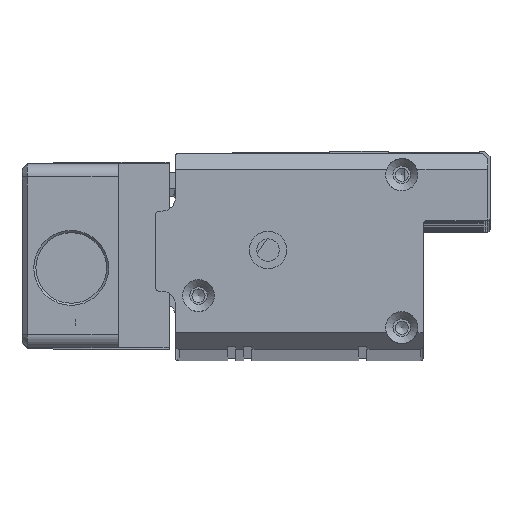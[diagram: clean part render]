
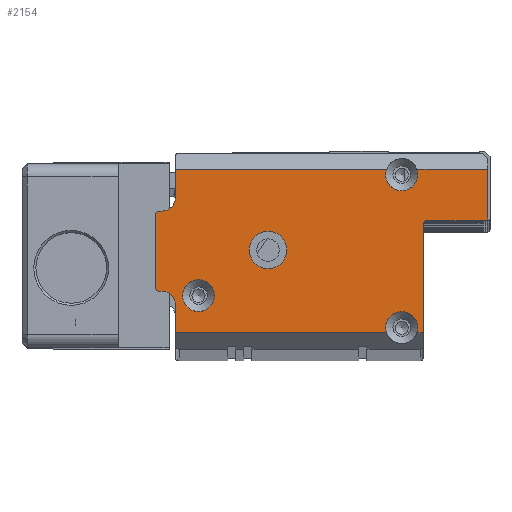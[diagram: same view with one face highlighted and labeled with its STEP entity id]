
A CAD part, top view. The second image highlights one B-rep face of the part: STEP entity #2154.
In plain terms, the highlighted planar face has unit normal (0, 0, 1).
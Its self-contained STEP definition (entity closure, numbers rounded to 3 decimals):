
#2154=ADVANCED_FACE('',(#6091,#6092,#6093),#2698,.T.);
#2698=PLANE('',#17886);
#4197=LINE('',#28148,#5755);
#4198=LINE('',#28150,#5756);
#4199=LINE('',#28154,#5757);
#4200=LINE('',#28158,#5758);
#4201=LINE('',#28160,#5759);
#4202=LINE('',#28164,#5760);
#4203=LINE('',#28166,#5761);
#4204=LINE('',#28170,#5762);
#4205=LINE('',#28174,#5763);
#4206=LINE('',#28178,#5764);
#4207=LINE('',#28182,#5765);
#4208=LINE('',#28184,#5766);
#5755=VECTOR('',#22373,1.);
#5756=VECTOR('',#22374,1.);
#5757=VECTOR('',#22377,1.);
#5758=VECTOR('',#22380,1.);
#5759=VECTOR('',#22381,1.);
#5760=VECTOR('',#22384,1.);
#5761=VECTOR('',#22385,1.);
#5762=VECTOR('',#22388,1.);
#5763=VECTOR('',#22391,1.);
#5764=VECTOR('',#22394,1.);
#5765=VECTOR('',#22397,1.);
#5766=VECTOR('',#22398,1.);
#6091=FACE_BOUND('',#7058,.T.);
#6092=FACE_BOUND('',#7059,.T.);
#6093=FACE_BOUND('',#7060,.T.);
#7058=EDGE_LOOP('',(#11600));
#7059=EDGE_LOOP('',(#11601,#11602,#11603,#11604,#11605,#11606,#11607,#11608,
#11609,#11610,#11611,#11612,#11613,#11614,#11615,#11616,#11617,#11618,#11619,
#11620));
#7060=EDGE_LOOP('',(#11621));
#11600=ORIENTED_EDGE('',*,*,#15689,.T.);
#11601=ORIENTED_EDGE('',*,*,#15690,.T.);
#11602=ORIENTED_EDGE('',*,*,#15691,.T.);
#11603=ORIENTED_EDGE('',*,*,#15692,.T.);
#11604=ORIENTED_EDGE('',*,*,#15693,.T.);
#11605=ORIENTED_EDGE('',*,*,#15694,.T.);
#11606=ORIENTED_EDGE('',*,*,#15695,.T.);
#11607=ORIENTED_EDGE('',*,*,#15696,.T.);
#11608=ORIENTED_EDGE('',*,*,#15697,.T.);
#11609=ORIENTED_EDGE('',*,*,#15698,.T.);
#11610=ORIENTED_EDGE('',*,*,#15699,.T.);
#11611=ORIENTED_EDGE('',*,*,#15700,.T.);
#11612=ORIENTED_EDGE('',*,*,#15701,.T.);
#11613=ORIENTED_EDGE('',*,*,#15702,.T.);
#11614=ORIENTED_EDGE('',*,*,#15703,.T.);
#11615=ORIENTED_EDGE('',*,*,#15704,.T.);
#11616=ORIENTED_EDGE('',*,*,#15705,.T.);
#11617=ORIENTED_EDGE('',*,*,#15706,.T.);
#11618=ORIENTED_EDGE('',*,*,#15707,.T.);
#11619=ORIENTED_EDGE('',*,*,#15708,.T.);
#11620=ORIENTED_EDGE('',*,*,#15709,.T.);
#11621=ORIENTED_EDGE('',*,*,#15710,.T.);
#13365=VERTEX_POINT('',#28144);
#13366=VERTEX_POINT('',#28146);
#13367=VERTEX_POINT('',#28147);
#13368=VERTEX_POINT('',#28149);
#13369=VERTEX_POINT('',#28151);
#13370=VERTEX_POINT('',#28153);
#13371=VERTEX_POINT('',#28155);
#13372=VERTEX_POINT('',#28157);
#13373=VERTEX_POINT('',#28159);
#13374=VERTEX_POINT('',#28161);
#13375=VERTEX_POINT('',#28163);
#13376=VERTEX_POINT('',#28165);
#13377=VERTEX_POINT('',#28167);
#13378=VERTEX_POINT('',#28169);
#13379=VERTEX_POINT('',#28171);
#13380=VERTEX_POINT('',#28173);
#13381=VERTEX_POINT('',#28175);
#13382=VERTEX_POINT('',#28177);
#13383=VERTEX_POINT('',#28179);
#13384=VERTEX_POINT('',#28181);
#13385=VERTEX_POINT('',#28183);
#13386=VERTEX_POINT('',#28186);
#15689=EDGE_CURVE('',#13365,#13365,#16377,.T.);
#15690=EDGE_CURVE('',#13366,#13367,#16378,.T.);
#15691=EDGE_CURVE('',#13367,#13368,#4197,.T.);
#15692=EDGE_CURVE('',#13368,#13369,#4198,.T.);
#15693=EDGE_CURVE('',#13369,#13370,#16379,.T.);
#15694=EDGE_CURVE('',#13370,#13371,#4199,.T.);
#15695=EDGE_CURVE('',#13371,#13372,#16380,.T.);
#15696=EDGE_CURVE('',#13372,#13373,#4200,.T.);
#15697=EDGE_CURVE('',#13373,#13374,#4201,.T.);
#15698=EDGE_CURVE('',#13374,#13375,#16381,.T.);
#15699=EDGE_CURVE('',#13375,#13376,#4202,.T.);
#15700=EDGE_CURVE('',#13376,#13377,#4203,.T.);
#15701=EDGE_CURVE('',#13377,#13378,#16382,.T.);
#15702=EDGE_CURVE('',#13378,#13379,#4204,.T.);
#15703=EDGE_CURVE('',#13379,#13380,#16383,.T.);
#15704=EDGE_CURVE('',#13380,#13381,#4205,.T.);
#15705=EDGE_CURVE('',#13381,#13382,#16384,.T.);
#15706=EDGE_CURVE('',#13382,#13383,#4206,.T.);
#15707=EDGE_CURVE('',#13383,#13384,#16385,.T.);
#15708=EDGE_CURVE('',#13384,#13385,#4207,.T.);
#15709=EDGE_CURVE('',#13385,#13366,#4208,.T.);
#15710=EDGE_CURVE('',#13386,#13386,#16386,.T.);
#16377=CIRCLE('',#17876,3.);
#16378=CIRCLE('',#17877,3.);
#16379=CIRCLE('',#17878,0.5);
#16380=CIRCLE('',#17879,0.5);
#16381=CIRCLE('',#17880,3.);
#16382=CIRCLE('',#17881,2.5);
#16383=CIRCLE('',#17882,0.5);
#16384=CIRCLE('',#17883,0.5);
#16385=CIRCLE('',#17884,2.5);
#16386=CIRCLE('',#17885,3.5);
#17876=AXIS2_PLACEMENT_3D('',#28143,#22369,#22370);
#17877=AXIS2_PLACEMENT_3D('',#28145,#22371,#22372);
#17878=AXIS2_PLACEMENT_3D('',#28152,#22375,#22376);
#17879=AXIS2_PLACEMENT_3D('',#28156,#22378,#22379);
#17880=AXIS2_PLACEMENT_3D('',#28162,#22382,#22383);
#17881=AXIS2_PLACEMENT_3D('',#28168,#22386,#22387);
#17882=AXIS2_PLACEMENT_3D('',#28172,#22389,#22390);
#17883=AXIS2_PLACEMENT_3D('',#28176,#22392,#22393);
#17884=AXIS2_PLACEMENT_3D('',#28180,#22395,#22396);
#17885=AXIS2_PLACEMENT_3D('',#28185,#22399,#22400);
#17886=AXIS2_PLACEMENT_3D('',#28187,#22401,#22402);
#22369=DIRECTION('',(0.,0.,-1.));
#22370=DIRECTION('',(-1.,0.,0.));
#22371=DIRECTION('',(0.,0.,-1.));
#22372=DIRECTION('',(-1.,0.,0.));
#22373=DIRECTION('',(1.,0.,0.));
#22374=DIRECTION('',(0.,1.,0.));
#22375=DIRECTION('',(0.,0.,-1.));
#22376=DIRECTION('',(1.,0.,0.));
#22377=DIRECTION('',(1.,0.,0.));
#22378=DIRECTION('',(0.,0.,1.));
#22379=DIRECTION('',(1.,0.,0.));
#22380=DIRECTION('',(0.,1.,0.));
#22381=DIRECTION('',(-1.,0.,0.));
#22382=DIRECTION('',(0.,0.,-1.));
#22383=DIRECTION('',(-1.,0.,0.));
#22384=DIRECTION('',(-1.,0.,0.));
#22385=DIRECTION('',(0.,-1.,0.));
#22386=DIRECTION('',(0.,0.,-1.));
#22387=DIRECTION('',(1.,0.,0.));
#22388=DIRECTION('',(-1.,0.,0.));
#22389=DIRECTION('',(0.,0.,1.));
#22390=DIRECTION('',(1.,0.,0.));
#22391=DIRECTION('',(0.,-1.,0.));
#22392=DIRECTION('',(0.,0.,1.));
#22393=DIRECTION('',(1.,0.,0.));
#22394=DIRECTION('',(1.,0.,0.));
#22395=DIRECTION('',(0.,0.,-1.));
#22396=DIRECTION('',(1.,0.,0.));
#22397=DIRECTION('',(0.,-1.,0.));
#22398=DIRECTION('',(1.,0.,0.));
#22399=DIRECTION('',(0.,0.,-1.));
#22400=DIRECTION('',(-1.,0.,0.));
#22401=DIRECTION('',(0.,0.,1.));
#22402=DIRECTION('',(-1.,0.,0.));
#28143=CARTESIAN_POINT('',(8.,-26.6,8.));
#28144=CARTESIAN_POINT('',(5.,-26.6,8.));
#28145=CARTESIAN_POINT('',(46.,-32.6,8.));
#28146=CARTESIAN_POINT('',(43.172,-33.6,8.));
#28147=CARTESIAN_POINT('',(48.828,-33.6,8.));
#28148=CARTESIAN_POINT('',(50.,-33.6,8.));
#28149=CARTESIAN_POINT('',(50.,-33.6,8.));
#28150=CARTESIAN_POINT('',(50.,-36.6,8.));
#28151=CARTESIAN_POINT('',(50.,-13.1,8.));
#28152=CARTESIAN_POINT('',(50.5,-13.1,8.));
#28153=CARTESIAN_POINT('',(50.5,-12.6,8.));
#28154=CARTESIAN_POINT('',(50.,-12.6,8.));
#28155=CARTESIAN_POINT('',(61.6,-12.6,8.));
#28156=CARTESIAN_POINT('',(61.6,-12.1,8.));
#28157=CARTESIAN_POINT('',(62.1,-12.1,8.));
#28158=CARTESIAN_POINT('',(62.1,-12.6,8.));
#28159=CARTESIAN_POINT('',(62.1,-3.,8.));
#28160=CARTESIAN_POINT('',(3.7,-3.,8.));
#28161=CARTESIAN_POINT('',(48.828,-3.,8.));
#28162=CARTESIAN_POINT('',(46.,-4.,8.));
#28163=CARTESIAN_POINT('',(43.172,-3.,8.));
#28164=CARTESIAN_POINT('',(3.7,-3.,8.));
#28165=CARTESIAN_POINT('',(3.7,-3.,8.));
#28166=CARTESIAN_POINT('',(3.7,0.,8.));
#28167=CARTESIAN_POINT('',(3.7,-8.3,8.));
#28168=CARTESIAN_POINT('',(1.2,-8.3,8.));
#28169=CARTESIAN_POINT('',(1.2,-10.8,8.));
#28170=CARTESIAN_POINT('',(3.7,-10.8,8.));
#28171=CARTESIAN_POINT('',(0.5,-10.8,8.));
#28172=CARTESIAN_POINT('',(0.5,-11.3,8.));
#28173=CARTESIAN_POINT('',(0.,-11.3,8.));
#28174=CARTESIAN_POINT('',(0.,-10.8,8.));
#28175=CARTESIAN_POINT('',(0.,-25.3,8.));
#28176=CARTESIAN_POINT('',(0.5,-25.3,8.));
#28177=CARTESIAN_POINT('',(0.5,-25.8,8.));
#28178=CARTESIAN_POINT('',(0.,-25.8,8.));
#28179=CARTESIAN_POINT('',(1.2,-25.8,8.));
#28180=CARTESIAN_POINT('',(1.2,-28.3,8.));
#28181=CARTESIAN_POINT('',(3.7,-28.3,8.));
#28182=CARTESIAN_POINT('',(3.7,-25.8,8.));
#28183=CARTESIAN_POINT('',(3.7,-33.6,8.));
#28184=CARTESIAN_POINT('',(50.,-33.6,8.));
#28185=CARTESIAN_POINT('',(21.,-18.1,8.));
#28186=CARTESIAN_POINT('',(17.5,-18.1,8.));
#28187=CARTESIAN_POINT('',(0.,0.,8.));
